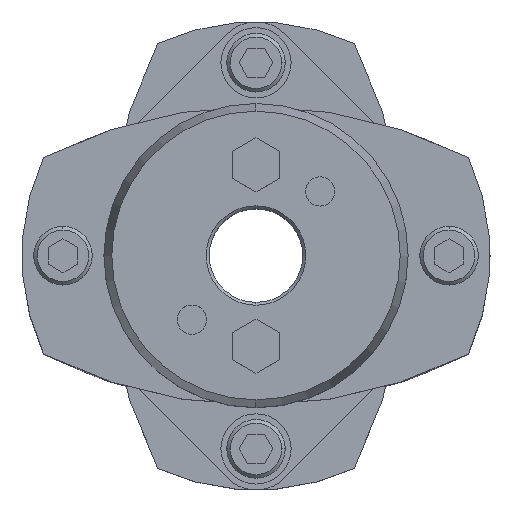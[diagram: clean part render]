
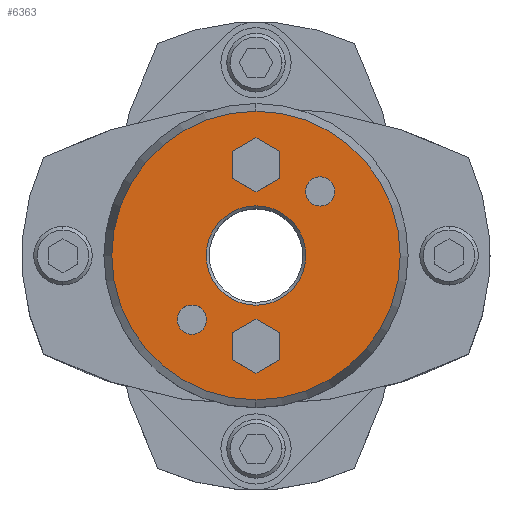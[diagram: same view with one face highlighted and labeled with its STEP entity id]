
A CAD part, top view. The second image highlights one B-rep face of the part: STEP entity #6363.
In plain terms, the highlighted planar face has unit normal (0, 0, 1).
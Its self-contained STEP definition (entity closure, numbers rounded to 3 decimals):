
#1677=CARTESIAN_POINT('',(0.,8.5,45.25));
#1678=VERTEX_POINT('',#1677);
#1694=CARTESIAN_POINT('',(0.,-8.5,45.25));
#1695=VERTEX_POINT('',#1694);
#1702=CARTESIAN_POINT('',(0.,0.,45.25));
#1703=DIRECTION('',(0.0,0.0,1.0));
#1704=DIRECTION('',(0.0,1.0,0.0));
#1705=AXIS2_PLACEMENT_3D('',#1702,#1703,#1704);
#1706=CIRCLE('',#1705,8.5);
#1707=EDGE_CURVE('',#1695,#1678,#1706,.T.);
#1865=CARTESIAN_POINT('',(0.,-24.66,45.25));
#1866=VERTEX_POINT('',#1865);
#1873=CARTESIAN_POINT('',(0.,24.66,45.25));
#1874=VERTEX_POINT('',#1873);
#1875=CARTESIAN_POINT('',(0.,0.,45.25));
#1876=DIRECTION('',(0.0,0.0,-1.0));
#1877=DIRECTION('',(0.0,-1.0,0.0));
#1878=AXIS2_PLACEMENT_3D('',#1875,#1876,#1877);
#1879=CIRCLE('',#1878,24.66);
#1880=EDGE_CURVE('',#1866,#1874,#1879,.T.);
#1975=CARTESIAN_POINT('',(10.96,13.46,45.25));
#1976=VERTEX_POINT('',#1975);
#1992=CARTESIAN_POINT('',(10.96,8.46,45.25));
#1993=VERTEX_POINT('',#1992);
#2000=CARTESIAN_POINT('',(10.96,10.96,45.25));
#2001=DIRECTION('',(0.0,0.0,-1.0));
#2002=DIRECTION('',(0.0,1.0,0.0));
#2003=AXIS2_PLACEMENT_3D('',#2000,#2001,#2002);
#2004=CIRCLE('',#2003,2.5);
#2005=EDGE_CURVE('',#1976,#1993,#2004,.T.);
#2017=CARTESIAN_POINT('',(-10.96,-8.46,45.25));
#2018=VERTEX_POINT('',#2017);
#2034=CARTESIAN_POINT('',(-10.96,-13.46,45.25));
#2035=VERTEX_POINT('',#2034);
#2042=CARTESIAN_POINT('',(-10.96,-10.96,45.25));
#2043=DIRECTION('',(0.0,0.0,-1.0));
#2044=DIRECTION('',(0.0,1.0,0.0));
#2045=AXIS2_PLACEMENT_3D('',#2042,#2043,#2044);
#2046=CIRCLE('',#2045,2.5);
#2047=EDGE_CURVE('',#2018,#2035,#2046,.T.);
#5607=CARTESIAN_POINT('',(0.,-10.881,45.25));
#5608=VERTEX_POINT('',#5607);
#5615=CARTESIAN_POINT('',(-4.,-13.191,45.25));
#5616=VERTEX_POINT('',#5615);
#5617=CARTESIAN_POINT('',(-4.,-13.191,45.25));
#5618=DIRECTION('',(0.866,0.5,0.0));
#5619=VECTOR('',#5618,4.619);
#5620=LINE('',#5617,#5619);
#5621=EDGE_CURVE('',#5616,#5608,#5620,.T.);
#5645=CARTESIAN_POINT('',(4.,-13.191,45.25));
#5646=VERTEX_POINT('',#5645);
#5653=CARTESIAN_POINT('',(0.,-10.881,45.25));
#5654=DIRECTION('',(0.866,-0.5,0.0));
#5655=VECTOR('',#5654,4.619);
#5656=LINE('',#5653,#5655);
#5657=EDGE_CURVE('',#5608,#5646,#5656,.T.);
#5676=CARTESIAN_POINT('',(4.,-17.809,45.25));
#5677=VERTEX_POINT('',#5676);
#5684=CARTESIAN_POINT('',(4.,-13.191,45.25));
#5685=DIRECTION('',(0.0,-1.0,0.0));
#5686=VECTOR('',#5685,4.619);
#5687=LINE('',#5684,#5686);
#5688=EDGE_CURVE('',#5646,#5677,#5687,.T.);
#5707=CARTESIAN_POINT('',(0.,-20.119,45.25));
#5708=VERTEX_POINT('',#5707);
#5715=CARTESIAN_POINT('',(4.,-17.809,45.25));
#5716=DIRECTION('',(-0.866,-0.5,0.0));
#5717=VECTOR('',#5716,4.619);
#5718=LINE('',#5715,#5717);
#5719=EDGE_CURVE('',#5677,#5708,#5718,.T.);
#5738=CARTESIAN_POINT('',(-4.,-17.809,45.25));
#5739=VERTEX_POINT('',#5738);
#5746=CARTESIAN_POINT('',(0.,-20.119,45.25));
#5747=DIRECTION('',(-0.866,0.5,0.0));
#5748=VECTOR('',#5747,4.619);
#5749=LINE('',#5746,#5748);
#5750=EDGE_CURVE('',#5708,#5739,#5749,.T.);
#5768=CARTESIAN_POINT('',(-4.,-17.809,45.25));
#5769=DIRECTION('',(0.0,1.0,0.0));
#5770=VECTOR('',#5769,4.619);
#5771=LINE('',#5768,#5770);
#5772=EDGE_CURVE('',#5739,#5616,#5771,.T.);
#5807=CARTESIAN_POINT('',(0.,20.119,45.25));
#5808=VERTEX_POINT('',#5807);
#5815=CARTESIAN_POINT('',(-4.,17.809,45.25));
#5816=VERTEX_POINT('',#5815);
#5817=CARTESIAN_POINT('',(-4.,17.809,45.25));
#5818=DIRECTION('',(0.866,0.5,0.0));
#5819=VECTOR('',#5818,4.619);
#5820=LINE('',#5817,#5819);
#5821=EDGE_CURVE('',#5816,#5808,#5820,.T.);
#5845=CARTESIAN_POINT('',(4.,17.809,45.25));
#5846=VERTEX_POINT('',#5845);
#5853=CARTESIAN_POINT('',(0.,20.119,45.25));
#5854=DIRECTION('',(0.866,-0.5,0.0));
#5855=VECTOR('',#5854,4.619);
#5856=LINE('',#5853,#5855);
#5857=EDGE_CURVE('',#5808,#5846,#5856,.T.);
#5876=CARTESIAN_POINT('',(4.,13.191,45.25));
#5877=VERTEX_POINT('',#5876);
#5884=CARTESIAN_POINT('',(4.,17.809,45.25));
#5885=DIRECTION('',(0.0,-1.0,0.0));
#5886=VECTOR('',#5885,4.619);
#5887=LINE('',#5884,#5886);
#5888=EDGE_CURVE('',#5846,#5877,#5887,.T.);
#5907=CARTESIAN_POINT('',(0.,10.881,45.25));
#5908=VERTEX_POINT('',#5907);
#5915=CARTESIAN_POINT('',(4.,13.191,45.25));
#5916=DIRECTION('',(-0.866,-0.5,0.0));
#5917=VECTOR('',#5916,4.619);
#5918=LINE('',#5915,#5917);
#5919=EDGE_CURVE('',#5877,#5908,#5918,.T.);
#5938=CARTESIAN_POINT('',(-4.,13.191,45.25));
#5939=VERTEX_POINT('',#5938);
#5946=CARTESIAN_POINT('',(0.,10.881,45.25));
#5947=DIRECTION('',(-0.866,0.5,0.0));
#5948=VECTOR('',#5947,4.619);
#5949=LINE('',#5946,#5948);
#5950=EDGE_CURVE('',#5908,#5939,#5949,.T.);
#5968=CARTESIAN_POINT('',(-4.,13.191,45.25));
#5969=DIRECTION('',(0.0,1.0,0.0));
#5970=VECTOR('',#5969,4.619);
#5971=LINE('',#5968,#5970);
#5972=EDGE_CURVE('',#5939,#5816,#5971,.T.);
#5998=CARTESIAN_POINT('',(-10.96,-10.96,45.25));
#5999=DIRECTION('',(0.0,0.0,-1.0));
#6000=DIRECTION('',(0.0,1.0,0.0));
#6001=AXIS2_PLACEMENT_3D('',#5998,#5999,#6000);
#6002=CIRCLE('',#6001,2.5);
#6003=EDGE_CURVE('',#2035,#2018,#6002,.T.);
#6032=CARTESIAN_POINT('',(10.96,10.96,45.25));
#6033=DIRECTION('',(0.0,0.0,-1.0));
#6034=DIRECTION('',(0.0,1.0,0.0));
#6035=AXIS2_PLACEMENT_3D('',#6032,#6033,#6034);
#6036=CIRCLE('',#6035,2.5);
#6037=EDGE_CURVE('',#1993,#1976,#6036,.T.);
#6310=CARTESIAN_POINT('',(0.,0.,45.25));
#6311=DIRECTION('',(0.0,0.0,-1.0));
#6312=DIRECTION('',(0.0,-1.0,0.0));
#6313=AXIS2_PLACEMENT_3D('',#6310,#6311,#6312);
#6314=CIRCLE('',#6313,24.66);
#6315=EDGE_CURVE('',#1874,#1866,#6314,.T.);
#6320=CARTESIAN_POINT('',(0.,2.364,45.25));
#6321=DIRECTION('',(0.0,0.0,1.0));
#6322=DIRECTION('',(0.0,1.0,0.0));
#6323=AXIS2_PLACEMENT_3D('',#6320,#6321,#6322);
#6324=PLANE('',#6323);
#6325=ORIENTED_EDGE('',*,*,#6315,.F.);
#6326=ORIENTED_EDGE('',*,*,#1880,.F.);
#6327=EDGE_LOOP('',(#6325,#6326));
#6328=FACE_OUTER_BOUND('',#6327,.T.);
#6329=ORIENTED_EDGE('',*,*,#5621,.T.);
#6330=ORIENTED_EDGE('',*,*,#5657,.T.);
#6331=ORIENTED_EDGE('',*,*,#5688,.T.);
#6332=ORIENTED_EDGE('',*,*,#5719,.T.);
#6333=ORIENTED_EDGE('',*,*,#5750,.T.);
#6334=ORIENTED_EDGE('',*,*,#5772,.T.);
#6335=EDGE_LOOP('',(#6329,#6330,#6331,#6332,#6333,#6334));
#6336=FACE_BOUND('',#6335,.T.);
#6337=ORIENTED_EDGE('',*,*,#5821,.T.);
#6338=ORIENTED_EDGE('',*,*,#5857,.T.);
#6339=ORIENTED_EDGE('',*,*,#5888,.T.);
#6340=ORIENTED_EDGE('',*,*,#5919,.T.);
#6341=ORIENTED_EDGE('',*,*,#5950,.T.);
#6342=ORIENTED_EDGE('',*,*,#5972,.T.);
#6343=EDGE_LOOP('',(#6337,#6338,#6339,#6340,#6341,#6342));
#6344=FACE_BOUND('',#6343,.T.);
#6345=ORIENTED_EDGE('',*,*,#2047,.T.);
#6346=ORIENTED_EDGE('',*,*,#6003,.T.);
#6347=EDGE_LOOP('',(#6345,#6346));
#6348=FACE_BOUND('',#6347,.T.);
#6349=ORIENTED_EDGE('',*,*,#2005,.T.);
#6350=ORIENTED_EDGE('',*,*,#6037,.T.);
#6351=EDGE_LOOP('',(#6349,#6350));
#6352=FACE_BOUND('',#6351,.T.);
#6353=ORIENTED_EDGE('',*,*,#1707,.F.);
#6354=CARTESIAN_POINT('',(0.,0.,45.25));
#6355=DIRECTION('',(0.0,0.0,1.0));
#6356=DIRECTION('',(0.0,1.0,0.0));
#6357=AXIS2_PLACEMENT_3D('',#6354,#6355,#6356);
#6358=CIRCLE('',#6357,8.5);
#6359=EDGE_CURVE('',#1678,#1695,#6358,.T.);
#6360=ORIENTED_EDGE('',*,*,#6359,.F.);
#6361=EDGE_LOOP('',(#6353,#6360));
#6362=FACE_BOUND('',#6361,.T.);
#6363=ADVANCED_FACE('',(#6328,#6336,#6344,#6348,#6352,#6362),#6324,.T.);
